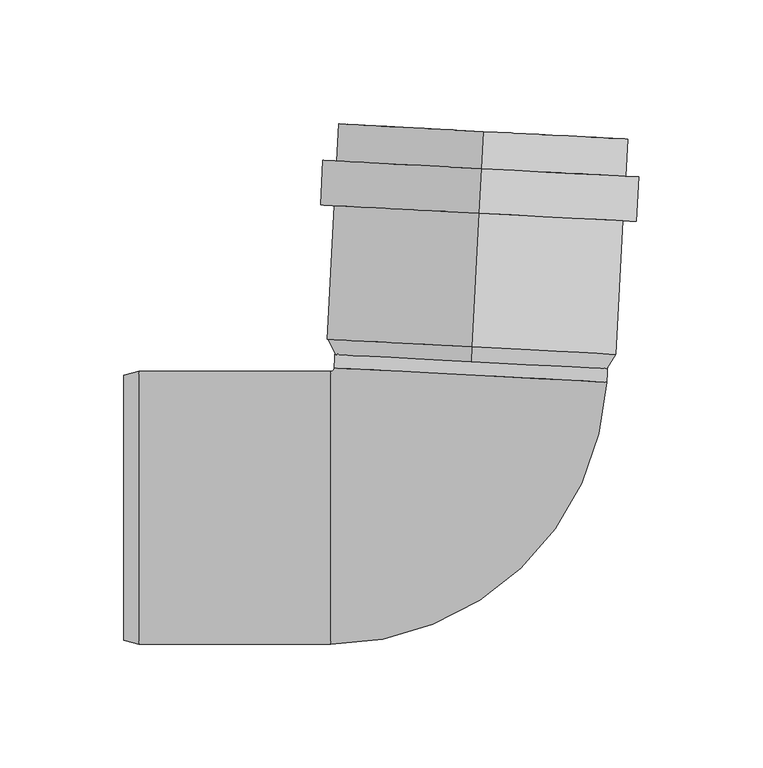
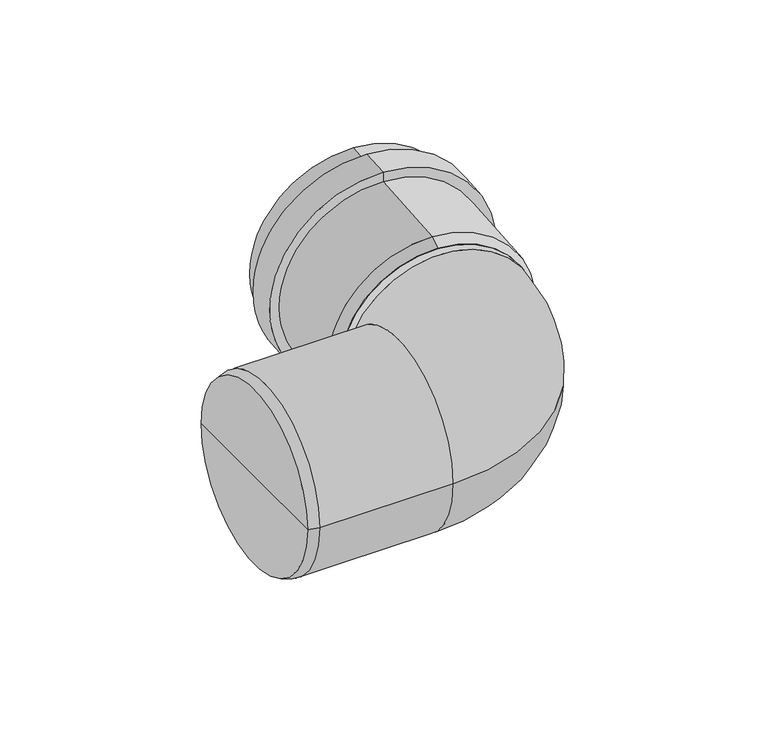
"""IFC4 building model written with IfcOpenShell, lengths in millimetres: pipe fitting geometry, OSMA_KG2000_PPKGB : Koleno 87°."""

import ifcopenshell
import ifcopenshell.guid

model = None  # the IFC model being written
_history = None  # IfcOwnerHistory: only IFC2X3 demands one
_inside = {}  # id of a spatial element -> (the spatial element, [elements in it])
_under = {}  # id of a project, library or spatial element -> (it, [spatial elements below it])
_declared = {}  # id of a project -> (the project, [libraries it declares])
_typed = {}  # id of a type object -> (the type object, [elements of that type])
_made_of = {}  # id of a material, layer set ... -> (it, [elements and type objects made of it])


def new_model(schema):
    """Start an empty IFC model of exactly this schema.

    Asked for "IFC4X3", IfcOpenShell would pick the latest addendum, in which some entities
    have other attributes; the version numbers below select the first issue.
    IFC2X3 requires an IfcOwnerHistory on every rooted entity: one is made here for all.
    """
    global model, _history
    if schema == "IFC4X3":
        model = ifcopenshell.file(schema_version=(4, 3, 0, 0))
    else:
        model = ifcopenshell.file(schema=schema)
    _inside.clear()
    _under.clear()
    _declared.clear()
    _typed.clear()
    _made_of.clear()
    _history = None
    if model.schema == "IFC2X3":
        org = make("IfcOrganization", Name="unknown")
        user = make(
            "IfcPersonAndOrganization",
            ThePerson=make("IfcPerson", FamilyName="unknown"),
            TheOrganization=org,
        )
        app = make(
            "IfcApplication",
            ApplicationDeveloper=org,
            Version="unknown",
            ApplicationFullName="unknown",
            ApplicationIdentifier="unknown",
        )
        _history = make(
            "IfcOwnerHistory",
            OwningUser=user,
            OwningApplication=app,
            ChangeAction="ADDED",
            CreationDate=0,
        )
    return model


def make(cls, **values):
    """One entity of the class cls with the attributes given. An attribute that is None is left unset."""
    return model.create_entity(
        cls, **{name: value for name, value in values.items() if value is not None}
    )


def rooted(cls, **values):
    """An entity with a GlobalId (a new one), such as an element, a storey or a relation."""
    return make(cls, GlobalId=ifcopenshell.guid.new(), OwnerHistory=_history, **values)


def si_unit(unit_type, name, prefix=None):
    """IfcSIUnit, for example si_unit("LENGTHUNIT", "METRE", prefix="MILLI")."""
    return make("IfcSIUnit", UnitType=unit_type, Prefix=prefix, Name=name)


def assignment(units):
    """IfcUnitAssignment: the units of a project."""
    return None if units is None else make("IfcUnitAssignment", Units=units)


def point(xyz):
    """IfcCartesianPoint."""
    return None if xyz is None else make("IfcCartesianPoint", Coordinates=xyz)


def direction(xyz):
    """IfcDirection."""
    return None if xyz is None else make("IfcDirection", DirectionRatios=xyz)


def frame(location, z_axis=None, x_axis=None):
    """IfcAxis2Placement3D, a coordinate frame: its origin and axes. An axis left out is left unset."""
    return make(
        "IfcAxis2Placement3D",
        Location=point(location),
        Axis=direction(z_axis),
        RefDirection=direction(x_axis),
    )


def origin():
    """The frame at (0, 0, 0) with its axes left unset."""
    return frame((0.0, 0.0, 0.0))


def place(relative_to, where):
    """IfcLocalPlacement: puts the frame where relative to a parent placement (None: the world)."""
    return make(
        "IfcLocalPlacement", PlacementRelTo=relative_to, RelativePlacement=where
    )


def context(
    kind, dimensions, precision=None, world=None, true_north=None, identifier=None
):
    """IfcGeometricRepresentationContext, for example the 3D "Model" context."""
    return make(
        "IfcGeometricRepresentationContext",
        ContextIdentifier=identifier,
        ContextType=kind,
        CoordinateSpaceDimension=dimensions,
        Precision=precision,
        WorldCoordinateSystem=world,
        TrueNorth=true_north,
    )


def project(units=None, contexts=None):
    """IfcProject with its units and contexts."""
    return rooted(
        "IfcProject",
        Name="project",
        RepresentationContexts=contexts,
        UnitsInContext=assignment(units),
    )


def spatial(cls, under=None, at=None, **own):
    """A site, building, storey or space (cls), placed at a placement, below another one or the project."""
    s = rooted(cls, ObjectPlacement=at, **own)
    if under is not None:
        _under.setdefault(under.id(), (under, []))[1].append(s)
    return s


def polyline(points):
    """IfcPolyline through the points."""
    return make("IfcPolyline", Points=[point(p) for p in points])


def circle_curve(where, radius):
    """IfcCircle in the frame where."""
    return make("IfcCircle", Position=where, Radius=radius)


def ellipse_curve(where, semi_axis1, semi_axis2):
    """IfcEllipse in the frame where."""
    return make(
        "IfcEllipse", Position=where, SemiAxis1=semi_axis1, SemiAxis2=semi_axis2
    )


def trimmed(basis, trim1, trim2, sense, master):
    """IfcTrimmedCurve: the piece of a basis curve between two trims."""
    return make(
        "IfcTrimmedCurve",
        BasisCurve=basis,
        Trim1=trim1,
        Trim2=trim2,
        SenseAgreement=sense,
        MasterRepresentation=master,
    )


def shape(context_of_items, identifier, shape_type, items):
    """IfcShapeRepresentation: the items that make up one representation, for example the "Body"."""
    return make(
        "IfcShapeRepresentation",
        ContextOfItems=context_of_items,
        RepresentationIdentifier=identifier,
        RepresentationType=shape_type,
        Items=items,
    )


def source(mapping_origin, context_of_items, identifier, shape_type, items):
    """IfcRepresentationMap: a shape defined once, which mapped items show again and again."""
    return make(
        "IfcRepresentationMap",
        MappingOrigin=mapping_origin,
        MappedRepresentation=shape(context_of_items, identifier, shape_type, items),
    )


def transform(
    local_origin,
    x_axis=None,
    y_axis=None,
    z_axis=None,
    scale=None,
    scale2=None,
    scale3=None,
    uniform=True,
):
    """IfcCartesianTransformationOperator3D, or its non-uniform kind. x_axis, y_axis, z_axis: its Axis1, 2, 3."""
    if uniform:
        return make(
            "IfcCartesianTransformationOperator3D",
            Axis1=direction(x_axis),
            Axis2=direction(y_axis),
            LocalOrigin=point(local_origin),
            Scale=scale,
            Axis3=direction(z_axis),
        )
    return make(
        "IfcCartesianTransformationOperator3DnonUniform",
        Axis1=direction(x_axis),
        Axis2=direction(y_axis),
        LocalOrigin=point(local_origin),
        Scale=scale,
        Axis3=direction(z_axis),
        Scale2=scale2,
        Scale3=scale3,
    )


def mapped(mapping_source, mapping_target):
    """IfcMappedItem: shows the shape of a source again, moved by a transform."""
    return make(
        "IfcMappedItem", MappingSource=mapping_source, MappingTarget=mapping_target
    )


def made_of(thing, what):
    """Note that an element or type object is made of a material, layer set ...; save() writes the relation."""
    if what is not None:
        _made_of.setdefault(what.id(), (what, []))[1].append(thing)
    return thing


def element(
    cls,
    number,
    at=None,
    inside=None,
    cuts=None,
    type_object=None,
    material=None,
    context=None,
    identifier="Body",
    shape_type=None,
    held_by="IfcProductDefinitionShape",
    body=None,
    shapes=None,
    **own,
):
    """One element of the class cls, such as IfcWall. Its Tag is "e" and its number.

    at: its placement. inside: the storey or other place that contains it. cuts: it is an
    opening in that element (IfcRelVoidsElement). A single representation is given by context,
    identifier, shape_type and body (its items); several are given by shapes. held_by: the class
    of the entity that holds the representations. save() writes the other relations.
    """
    e = rooted(cls, Tag="e%d" % number, ObjectPlacement=at, **own)
    if body is not None:
        shapes = [shape(context, identifier, shape_type, body)]
    if shapes is not None:
        e.Representation = make(held_by, Representations=shapes)
    if inside is not None:
        _inside.setdefault(inside.id(), (inside, []))[1].append(e)
    if cuts is not None:
        rooted(
            "IfcRelVoidsElement", RelatingBuildingElement=cuts, RelatedOpeningElement=e
        )
    if type_object is not None:
        _typed.setdefault(type_object.id(), (type_object, []))[1].append(e)
    return made_of(e, material)


def aggregate(whole, parts):
    """IfcRelAggregates: a whole, such as a stair, and the parts it consists of."""
    return rooted("IfcRelAggregates", RelatingObject=whole, RelatedObjects=parts)


def save(model, path):
    """Write the relations noted so far, then the file.

    IfcRelAggregates (storeys below a building ...), IfcRelContainedInSpatialStructure (elements
    in a storey), IfcRelDefinesByType, IfcRelAssociatesMaterial and IfcRelDeclares: one each for
    every whole, place, type object, material and project.
    """
    for whole, parts in _under.values():
        aggregate(whole, parts)
    for where, things in _inside.values():
        rooted(
            "IfcRelContainedInSpatialStructure",
            RelatedElements=things,
            RelatingStructure=where,
        )
    for kind, things in _typed.values():
        rooted("IfcRelDefinesByType", RelatedObjects=things, RelatingType=kind)
    for what, things in _made_of.values():
        rooted("IfcRelAssociatesMaterial", RelatedObjects=things, RelatingMaterial=what)
    for by, libraries in _declared.values():
        rooted("IfcRelDeclares", RelatingContext=by, RelatedDefinitions=libraries)
    model.write(path)


def plane_surface(at):
    """IfcPlane: the flat surface through the origin of the frame at, square to its z axis."""
    return make("IfcPlane", Position=at)


def cylinder_surface(at, radius):
    """IfcCylindricalSurface: all points at the distance radius from the z axis of the frame at."""
    return make("IfcCylindricalSurface", Position=at, Radius=radius)


def revolved_surface(curve, axis_point, axis_direction):
    """IfcSurfaceOfRevolution: the curve turned about the line through axis_point along axis_direction."""
    return make(
        "IfcSurfaceOfRevolution",
        SweptCurve=make("IfcArbitraryOpenProfileDef", ProfileType="CURVE", Curve=curve),
        AxisPosition=make("IfcAxis1Placement", Location=point(axis_point), Axis=direction(axis_direction)),
    )


def advanced_brep(points, edges, surfaces, faces):
    """IfcAdvancedBrep: a solid bounded by faces that lie on surfaces and meet in shared edges.

    An edge is (start, end): straight between two places in points (the first is 0);
    or (start, end, curve); or (start, end, curve, False) where it runs against its curve.
    A face is (place in surfaces, loops), or (place, loops, False) where it looks against
    its surface's normal. A loop lists edges by number (the first is 1), with a minus sign
    where the edge is run from its end to its start. The first loop is the outer one.
    """
    corners = [point(p) for p in points]
    vertices = [make("IfcVertexPoint", VertexGeometry=c) for c in corners]
    made = []
    for start, end, *more in edges:
        made.append(
            make(
                "IfcEdgeCurve",
                EdgeStart=vertices[start],
                EdgeEnd=vertices[end],
                EdgeGeometry=more[0] if more else make("IfcPolyline", Points=[corners[start], corners[end]]),
                SameSense=more[1] if len(more) > 1 else True,
            )
        )
    hull = []
    for where, loops, *sense in faces:
        bounds = []
        for j, loop in enumerate(loops):
            ring = [make("IfcOrientedEdge", EdgeElement=made[abs(k) - 1], Orientation=k > 0) for k in loop]
            bounds.append(
                make(
                    "IfcFaceOuterBound" if j == 0 else "IfcFaceBound",
                    Bound=make("IfcEdgeLoop", EdgeList=ring),
                    Orientation=True,
                )
            )
        hull.append(make("IfcAdvancedFace", Bounds=bounds, FaceSurface=surfaces[where], SameSense=sense[0] if sense else True))
    return make("IfcAdvancedBrep", Outer=make("IfcClosedShell", CfsFaces=hull))


def pipe_fitting_7b812b60(model_context):
    return source(origin(), model_context, "Body", "AdvancedBrep", [
        advanced_brep(
        [(3.4018372, 64.9109198, 55.0), (3.4018372, 64.9109198, -55.0), (7.9550653, 151.7916893, -55.0), (7.9550653, 151.7916893, 55.0), (6.2279788, 118.8369146, 58.4), (6.2279788, 118.8369146, -58.4), (3.4018372, 64.9109198, -58.4), (3.4018372, 64.9109198, 58.4), (6.2279788, 118.8369146, 64.0), (6.2279788, 118.8369146, -64.0), (7.170026, 136.8122463, 64.0), (7.170026, 136.8122463, -64.0), (7.170026, 136.8122463, 58.4), (7.170026, 136.8122463, -58.4), (7.9550653, 151.7916893, 58.4), (7.9550653, 151.7916893, -58.4), (3.0878214, 58.9191426, 51.6), (3.0878214, 58.9191426, -51.6), (3.0878214, 58.9191426, 55.0), (3.0878214, 58.9191426, -55.0)],
        [
            (0, 1, circle_curve(frame((3.4018372, 64.9109198, 0.0), z_axis=(-0.052335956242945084, -0.9986295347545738, 0.0), x_axis=(0.0, 0.0, -1.0)), 55.0)),
            (1, 2),
            (2, 3, circle_curve(frame((7.9550653, 151.7916893, 0.0), z_axis=(0.052335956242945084, 0.9986295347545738, 0.0), x_axis=(0.0, 0.0, -1.0)), 55.0)),
            (3, 0),
            (1, 0, circle_curve(frame((3.4018372, 64.9109198, 0.0), z_axis=(-0.052335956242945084, -0.9986295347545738, 0.0), x_axis=(0.0, 0.0, -1.0)), 55.0)),
            (3, 2, circle_curve(frame((7.9550653, 151.7916893, 0.0), z_axis=(0.052335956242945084, 0.9986295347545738, 0.0), x_axis=(0.0, 0.0, -1.0)), 55.0)),
            (4, 5, circle_curve(frame((6.2279788, 118.8369146, 0.0), z_axis=(-0.052335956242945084, -0.9986295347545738, 0.0), x_axis=(0.0, 0.0, -1.0)), 58.4)),
            (5, 6),
            (6, 7, circle_curve(frame((3.4018372, 64.9109198, 0.0), z_axis=(0.052335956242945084, 0.9986295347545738, 0.0), x_axis=(0.0, 0.0, -1.0)), 58.4)),
            (7, 4),
            (5, 4, circle_curve(frame((6.2279788, 118.8369146, 0.0), z_axis=(-0.052335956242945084, -0.9986295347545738, 0.0), x_axis=(0.0, 0.0, -1.0)), 58.4)),
            (7, 6, circle_curve(frame((3.4018372, 64.9109198, 0.0), z_axis=(0.052335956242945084, 0.9986295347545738, 0.0), x_axis=(0.0, 0.0, -1.0)), 58.4)),
            (8, 9, circle_curve(frame((6.2279788, 118.8369146, 0.0), z_axis=(-0.052335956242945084, -0.9986295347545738, 0.0), x_axis=(0.0, 0.0, -1.0)), 64.0)),
            (9, 5),
            (4, 8),
            (9, 8, circle_curve(frame((6.2279788, 118.8369146, 0.0), z_axis=(-0.052335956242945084, -0.9986295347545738, 0.0), x_axis=(0.0, 0.0, -1.0)), 64.0)),
            (10, 11, circle_curve(frame((7.170026, 136.8122463, 0.0), z_axis=(-0.052335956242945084, -0.9986295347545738, 0.0), x_axis=(0.0, 0.0, -1.0)), 64.0)),
            (11, 9),
            (8, 10),
            (11, 10, circle_curve(frame((7.170026, 136.8122463, 0.0), z_axis=(-0.052335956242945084, -0.9986295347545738, 0.0), x_axis=(0.0, 0.0, -1.0)), 64.0)),
            (12, 13, circle_curve(frame((7.170026, 136.8122463, 0.0), z_axis=(-0.052335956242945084, -0.9986295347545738, 0.0), x_axis=(0.0, 0.0, -1.0)), 58.4)),
            (13, 11),
            (10, 12),
            (13, 12, circle_curve(frame((7.170026, 136.8122463, 0.0), z_axis=(-0.052335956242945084, -0.9986295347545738, 0.0), x_axis=(0.0, 0.0, -1.0)), 58.4)),
            (14, 15, circle_curve(frame((7.9550653, 151.7916893, 0.0), z_axis=(-0.052335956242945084, -0.9986295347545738, 0.0), x_axis=(0.0, 0.0, -1.0)), 58.4)),
            (15, 13),
            (12, 14),
            (15, 14, circle_curve(frame((7.9550653, 151.7916893, 0.0), z_axis=(-0.052335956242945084, -0.9986295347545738, 0.0), x_axis=(0.0, 0.0, -1.0)), 58.4)),
            (2, 15),
            (14, 3),
            (16, 17, circle_curve(frame((3.0878214, 58.9191426, 0.0), z_axis=(-0.052335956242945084, -0.9986295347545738, 0.0), x_axis=(0.0, 0.0, -1.0)), 51.6)),
            (17, 1),
            (0, 16),
            (17, 16, circle_curve(frame((3.0878214, 58.9191426, 0.0), z_axis=(-0.052335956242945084, -0.9986295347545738, 0.0), x_axis=(0.0, 0.0, -1.0)), 51.6)),
            (18, 19, circle_curve(frame((3.0878214, 58.9191426, 0.0), z_axis=(-0.052335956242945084, -0.9986295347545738, 0.0), x_axis=(0.0, 0.0, -1.0)), 55.0)),
            (19, 17),
            (16, 18),
            (19, 18, circle_curve(frame((3.0878214, 58.9191426, 0.0), z_axis=(-0.052335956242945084, -0.9986295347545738, 0.0), x_axis=(0.0, 0.0, -1.0)), 55.0)),
            (6, 19),
            (18, 7),
        ],
        [
            revolved_surface(polyline([(7.955065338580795, 151.79168929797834, -55.0), (3.4018371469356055, 64.91091980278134, -55.0)]), (147.6645513, 2817.6074875, 0.0), (0.052335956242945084, 0.9986295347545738, 0.0)),
            cylinder_surface(frame((147.6645513, 2817.6074875, 0.0), z_axis=(0.052335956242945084, 0.9986295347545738, 0.0), x_axis=(0.0, 0.0, -1.0)), 58.4),
            plane_surface(frame((6.2279788, 118.8369146, 0.0), z_axis=(-0.052335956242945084, -0.9986295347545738, 0.0), x_axis=(0.0, 0.0, -1.0))),
            cylinder_surface(frame((147.6645513, 2817.6074875, 0.0), z_axis=(0.052335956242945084, 0.9986295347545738, 0.0), x_axis=(0.0, 0.0, -1.0)), 64.0),
            plane_surface(frame((7.170026, 136.8122463, 0.0), z_axis=(0.052335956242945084, 0.9986295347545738, 0.0), x_axis=(0.0, 0.0, -1.0))),
            plane_surface(frame((7.9550653, 151.7916893, 0.0), z_axis=(0.052335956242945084, 0.9986295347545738, 0.0), x_axis=(0.0, 0.0, -1.0))),
            revolved_surface(polyline([(3.4018372, 64.9109198, -55.0), (3.0878214, 58.9191426, -51.6)]), (147.6645513, 2817.6074875, 0.0), (0.052335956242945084, 0.9986295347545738, 0.0)),
            plane_surface(frame((3.0878214, 58.9191426, 0.0), z_axis=(-0.052335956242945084, -0.9986295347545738, 0.0), x_axis=(0.0, 0.0, -1.0))),
            revolved_surface(polyline([(3.0878214, 58.9191426, -55.0), (3.4018372, 64.9109198, -58.4)]), (147.6645513, 2817.6074875, 0.0), (0.052335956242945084, 0.9986295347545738, 0.0)),
        ],
        [
            (0, [[1, 2, 3, 4]]),
            (0, [[5, -4, 6, -2]]),
            (1, [[7, 8, 9, 10]]),
            (1, [[11, -10, 12, -8]]),
            (2, [[13, 14, -7, 15]]),
            (2, [[16, -15, -11, -14]]),
            (3, [[17, 18, -13, 19]]),
            (3, [[20, -19, -16, -18]]),
            (4, [[21, 22, -17, 23]]),
            (4, [[24, -23, -20, -22]]),
            (1, [[25, 26, -21, 27]]),
            (1, [[28, -27, -24, -26]]),
            (5, [[-3, 29, -25, 30]]),
            (5, [[-6, -30, -28, -29]]),
            (6, [[31, 32, -1, 33]]),
            (6, [[34, -33, -5, -32]]),
            (7, [[35, 36, -31, 37]]),
            (7, [[38, -37, -34, -36]]),
            (8, [[-9, 39, -35, 40]]),
            (8, [[-12, -40, -38, -39]]),
        ],
    ),
        advanced_brep(
        [(-52.1185537, 56.4214961, 0.0), (-53.616498, 55.0, 0.0), (-53.616498, -55.0, 0.0), (57.7306951, 50.6645409, 0.0), (2.8060707, 53.5430185, 55.0), (2.8060707, 53.5430185, -55.0), (-137.0, 0.0, 0.0), (-137.0, 53.3923048, 0.0), (-137.0, -53.3923048, 0.0), (-131.0, 55.0, 0.0), (-131.0, -55.0, 0.0), (58.3264616, 62.0324422, 0.0), (-51.5227873, 67.7893974, 0.0)],
        [
            (0, 1, circle_curve(frame((-53.616498, 56.5, 0.0), z_axis=(0.0, 0.0, -1.0), x_axis=(0.0, -1.0, 0.0)), 1.5)),
            (1, 2, circle_curve(frame((-53.616498, 0.0, 0.0), z_axis=(1.0, 0.0, 0.0), x_axis=(0.0, 1.0, 0.0)), 55.0)),
            (2, 3, circle_curve(frame((-53.616498, 56.5, 0.0), z_axis=(0.0, 0.0, 1.0), x_axis=(0.0, -1.0, 0.0)), 111.5)),
            (3, 4, circle_curve(frame((2.8060707, 53.5430185, 0.0), z_axis=(-0.05233595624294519, -0.9986295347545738, 0.0), x_axis=(-0.9986295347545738, 0.05233595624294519, 0.0)), 55.0)),
            (4, 0, circle_curve(frame((2.8060707, 53.5430185, 0.0), z_axis=(-0.05233595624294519, -0.9986295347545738, 0.0), x_axis=(-0.9986295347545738, 0.05233595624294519, 0.0)), 55.0)),
            (0, 5, circle_curve(frame((2.8060707, 53.5430185, 0.0), z_axis=(-0.05233595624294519, -0.9986295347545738, 0.0), x_axis=(-0.9986295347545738, 0.05233595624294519, 0.0)), 55.0)),
            (5, 3, circle_curve(frame((2.8060707, 53.5430185, 0.0), z_axis=(-0.05233595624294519, -0.9986295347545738, 0.0), x_axis=(-0.9986295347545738, 0.05233595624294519, 0.0)), 55.0)),
            (2, 1, circle_curve(frame((-53.616498, 0.0, 0.0), z_axis=(1.0, 0.0, 0.0), x_axis=(0.0, 1.0, 0.0)), 55.0)),
            (6, 7),
            (7, 8, circle_curve(frame((-137.0, 0.0, 0.0), z_axis=(-1.0, 0.0, 0.0), x_axis=(0.0, 1.0, 0.0)), 53.3923048)),
            (8, 6),
            (8, 7, circle_curve(frame((-137.0, 0.0, 0.0), z_axis=(-1.0, 0.0, 0.0), x_axis=(0.0, 1.0, 0.0)), 53.3923048)),
            (7, 9),
            (9, 10, circle_curve(frame((-131.0, 0.0, 0.0), z_axis=(-1.0, 0.0, 0.0), x_axis=(0.0, 1.0, 0.0)), 55.0)),
            (10, 8),
            (10, 9, circle_curve(frame((-131.0, 0.0, 0.0), z_axis=(-1.0, 0.0, 0.0), x_axis=(0.0, 1.0, 0.0)), 55.0)),
            (9, 1),
            (2, 10),
            (11, 12, circle_curve(frame((3.4018372, 64.9109198, 0.0), z_axis=(0.05233595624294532, 0.9986295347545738, 0.0), x_axis=(-0.9986295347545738, 0.05233595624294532, 0.0)), 55.0)),
            (12, 11, circle_curve(frame((3.4018372, 64.9109198, 0.0), z_axis=(0.05233595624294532, 0.9986295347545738, 0.0), x_axis=(-0.9986295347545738, 0.05233595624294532, 0.0)), 55.0)),
            (12, 0),
            (3, 11),
        ],
        [
            revolved_surface(trimmed(ellipse_curve(frame((-53.616498, 0.0, 0.0), z_axis=(-1.0, 0.0, 0.0), x_axis=(0.0, 1.0, 0.0)), 55.0, 55.0), [point((-53.616498, -55.0, 0.0))], [point((-53.616498, 55.0, 0.0))], True, "CARTESIAN"), (-53.616498, 56.5, 0.0), (0.0, 0.0, 1.0)),
            revolved_surface(trimmed(ellipse_curve(frame((-53.616498, 0.0, 0.0), z_axis=(-1.0, 0.0, 0.0), x_axis=(0.0, 1.0, 0.0)), 55.0, 55.0), [point((-53.616498, 55.0, 0.0))], [point((-53.616498, -55.0, 0.0))], True, "CARTESIAN"), (-53.616498, 56.5, 0.0), (0.0, 0.0, 1.0)),
            plane_surface(frame((-137.0, 0.0, 0.0), z_axis=(-1.0, 0.0, 0.0), x_axis=(0.0, 1.0, 0.0))),
            revolved_surface(polyline([(-131.0, 55.0, 0.0), (-137.0, 53.3923048, 0.0)]), (331.0587718, 0.0, 0.0), (-1.0, 0.0, 0.0)),
            cylinder_surface(frame((331.0587718, 0.0, 0.0), z_axis=(-1.0, 0.0, 0.0), x_axis=(0.0, 1.0, 0.0)), 55.0),
            plane_surface(frame((3.4018372, 64.9109198, 0.0), z_axis=(0.05233595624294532, 0.9986295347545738, 0.0), x_axis=(0.0, 0.0, 1.0))),
            cylinder_surface(frame((2.8060707, 53.5430185, 0.0), z_axis=(-0.05233595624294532, -0.9986295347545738, 0.0), x_axis=(-0.9986295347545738, 0.05233595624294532, 0.0)), 55.0),
        ],
        [
            (0, [[1, 2, 3, 4, 5]]),
            (1, [[-1, 6, 7, -3, 8]]),
            (2, [[9, 10, 11]]),
            (2, [[-9, -11, 12]]),
            (3, [[-10, 13, 14, 15]]),
            (3, [[-12, -15, 16, -13]]),
            (4, [[-14, 17, -8, 18]]),
            (4, [[-16, -18, -2, -17]]),
            (5, [[19, 20]]),
            (6, [[-20, 21, -5, -4, 22]]),
            (6, [[-19, -22, -7, -6, -21]]),
        ],
    ),
    ])


if __name__ == "__main__":
    model = new_model("IFC4")
    model_context = context("Model", 3, world=origin())
    ifc_project = project(units=[si_unit("LENGTHUNIT", "METRE", prefix="MILLI")], contexts=[model_context])
    site = spatial("IfcSite", under=ifc_project)
    building = spatial("IfcBuilding", under=site)
    placement = place(None, origin())
    pipe_fitting_shape = pipe_fitting_7b812b60(model_context)
    element("IfcPipeFitting", 1, ObjectType="OSMA_KG2000_PPKGB : Koleno 87°", at=placement, inside=building, context=model_context, shape_type="MappedRepresentation", body=[
        mapped(pipe_fitting_shape, transform((0.0, 0.0, 0.0), x_axis=(1.0, 0.0, 0.0), y_axis=(0.0, 1.0, 0.0), z_axis=(0.0, 0.0, 1.0))),
    ])
    save(model, "model.ifc")
